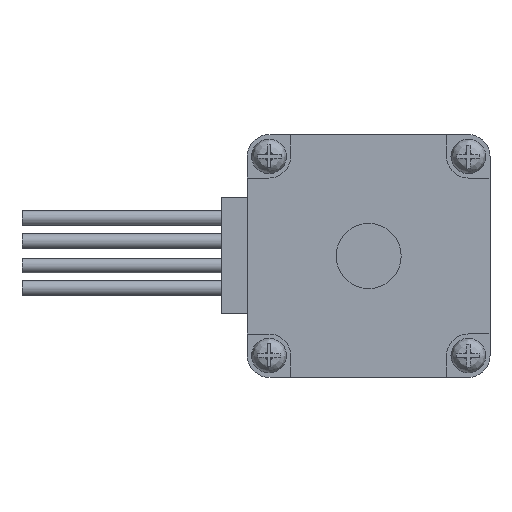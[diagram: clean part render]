
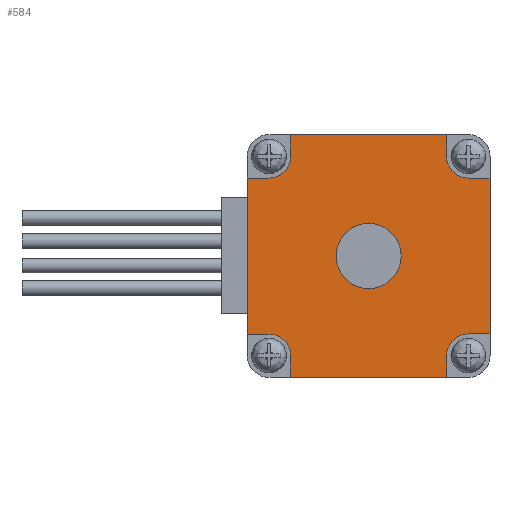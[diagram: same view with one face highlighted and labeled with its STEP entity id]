
A CAD part, front view. The second image highlights one B-rep face of the part: STEP entity #584.
In plain terms, the highlighted planar face has unit normal (0, -1, 0).
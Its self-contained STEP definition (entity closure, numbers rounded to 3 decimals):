
#216=FACE_BOUND('',#1122,.T.);
#217=FACE_BOUND('',#1123,.T.);
#467=CIRCLE('',#3623,3.75);
#468=CIRCLE('',#3624,2.5);
#469=CIRCLE('',#3625,2.5);
#470=CIRCLE('',#3626,2.5);
#471=CIRCLE('',#3627,2.5);
#584=ADVANCED_FACE('',(#216,#217),#746,.T.);
#746=PLANE('',#3628);
#1122=EDGE_LOOP('',(#1672));
#1123=EDGE_LOOP('',(#1673,#1674,#1675,#1676,#1677,#1678,#1679,#1680,#1681,
#1682,#1683,#1684,#1685,#1686,#1687,#1688));
#1672=ORIENTED_EDGE('',*,*,#2713,.F.);
#1673=ORIENTED_EDGE('',*,*,#2714,.F.);
#1674=ORIENTED_EDGE('',*,*,#2698,.T.);
#1675=ORIENTED_EDGE('',*,*,#2715,.F.);
#1676=ORIENTED_EDGE('',*,*,#2716,.F.);
#1677=ORIENTED_EDGE('',*,*,#2717,.F.);
#1678=ORIENTED_EDGE('',*,*,#2703,.T.);
#1679=ORIENTED_EDGE('',*,*,#2718,.F.);
#1680=ORIENTED_EDGE('',*,*,#2719,.F.);
#1681=ORIENTED_EDGE('',*,*,#2720,.F.);
#1682=ORIENTED_EDGE('',*,*,#2708,.T.);
#1683=ORIENTED_EDGE('',*,*,#2721,.F.);
#1684=ORIENTED_EDGE('',*,*,#2722,.F.);
#1685=ORIENTED_EDGE('',*,*,#2723,.F.);
#1686=ORIENTED_EDGE('',*,*,#2663,.T.);
#1687=ORIENTED_EDGE('',*,*,#2724,.F.);
#1688=ORIENTED_EDGE('',*,*,#2725,.F.);
#2309=VERTEX_POINT('',#5567);
#2310=VERTEX_POINT('',#5569);
#2336=VERTEX_POINT('',#5644);
#2337=VERTEX_POINT('',#5645);
#2340=VERTEX_POINT('',#5654);
#2341=VERTEX_POINT('',#5655);
#2344=VERTEX_POINT('',#5664);
#2345=VERTEX_POINT('',#5665);
#2348=VERTEX_POINT('',#5674);
#2349=VERTEX_POINT('',#5676);
#2350=VERTEX_POINT('',#5678);
#2351=VERTEX_POINT('',#5680);
#2352=VERTEX_POINT('',#5683);
#2353=VERTEX_POINT('',#5685);
#2354=VERTEX_POINT('',#5688);
#2355=VERTEX_POINT('',#5690);
#2356=VERTEX_POINT('',#5693);
#2663=EDGE_CURVE('',#2310,#2309,#2983,.T.);
#2698=EDGE_CURVE('',#2336,#2337,#3007,.T.);
#2703=EDGE_CURVE('',#2340,#2341,#3012,.T.);
#2708=EDGE_CURVE('',#2344,#2345,#3017,.T.);
#2713=EDGE_CURVE('',#2348,#2348,#467,.T.);
#2714=EDGE_CURVE('',#2336,#2349,#3022,.T.);
#2715=EDGE_CURVE('',#2350,#2337,#3023,.T.);
#2716=EDGE_CURVE('',#2351,#2350,#468,.T.);
#2717=EDGE_CURVE('',#2340,#2351,#3024,.T.);
#2718=EDGE_CURVE('',#2352,#2341,#3025,.T.);
#2719=EDGE_CURVE('',#2353,#2352,#469,.T.);
#2720=EDGE_CURVE('',#2344,#2353,#3026,.T.);
#2721=EDGE_CURVE('',#2354,#2345,#3027,.T.);
#2722=EDGE_CURVE('',#2355,#2354,#470,.T.);
#2723=EDGE_CURVE('',#2310,#2355,#3028,.T.);
#2724=EDGE_CURVE('',#2356,#2309,#3029,.T.);
#2725=EDGE_CURVE('',#2349,#2356,#471,.T.);
#2983=LINE('',#5568,#3271);
#3007=LINE('',#5643,#3295);
#3012=LINE('',#5653,#3300);
#3017=LINE('',#5663,#3305);
#3022=LINE('',#5675,#3310);
#3023=LINE('',#5677,#3311);
#3024=LINE('',#5681,#3312);
#3025=LINE('',#5682,#3313);
#3026=LINE('',#5686,#3314);
#3027=LINE('',#5687,#3315);
#3028=LINE('',#5691,#3316);
#3029=LINE('',#5692,#3317);
#3271=VECTOR('',#4157,1.);
#3295=VECTOR('',#4231,1.);
#3300=VECTOR('',#4238,1.);
#3305=VECTOR('',#4245,1.);
#3310=VECTOR('',#4254,1.);
#3311=VECTOR('',#4255,1.);
#3312=VECTOR('',#4258,1.);
#3313=VECTOR('',#4259,1.);
#3314=VECTOR('',#4262,1.);
#3315=VECTOR('',#4263,1.);
#3316=VECTOR('',#4266,1.);
#3317=VECTOR('',#4267,1.);
#3623=AXIS2_PLACEMENT_3D('',#5673,#4252,#4253);
#3624=AXIS2_PLACEMENT_3D('',#5679,#4256,#4257);
#3625=AXIS2_PLACEMENT_3D('',#5684,#4260,#4261);
#3626=AXIS2_PLACEMENT_3D('',#5689,#4264,#4265);
#3627=AXIS2_PLACEMENT_3D('',#5694,#4268,#4269);
#3628=AXIS2_PLACEMENT_3D('',#5695,#4270,#4271);
#4157=DIRECTION('',(0.,0.,-1.));
#4231=DIRECTION('',(1.,0.,0.));
#4238=DIRECTION('',(0.,0.,1.));
#4245=DIRECTION('',(-1.,0.,0.));
#4252=DIRECTION('',(0.,-1.,0.));
#4253=DIRECTION('',(0.,0.,-1.));
#4254=DIRECTION('',(0.,0.,1.));
#4255=DIRECTION('',(0.,0.,-1.));
#4256=DIRECTION('',(0.,-1.,0.));
#4257=DIRECTION('',(-1.,0.,0.));
#4258=DIRECTION('',(-1.,0.,0.));
#4259=DIRECTION('',(1.,0.,0.));
#4260=DIRECTION('',(0.,-1.,0.));
#4261=DIRECTION('',(0.,0.,-1.));
#4262=DIRECTION('',(0.,0.,-1.));
#4263=DIRECTION('',(0.,0.,1.));
#4264=DIRECTION('',(0.,-1.,0.));
#4265=DIRECTION('',(1.,0.,0.));
#4266=DIRECTION('',(1.,0.,0.));
#4267=DIRECTION('',(-1.,0.,0.));
#4268=DIRECTION('',(0.,-1.,0.));
#4269=DIRECTION('',(0.,0.,1.));
#4270=DIRECTION('',(0.,-1.,0.));
#4271=DIRECTION('',(0.,0.,-1.));
#5567=CARTESIAN_POINT('',(-14.,-7.1,-9.));
#5568=CARTESIAN_POINT('',(-14.,-7.1,11.5));
#5569=CARTESIAN_POINT('',(-14.,-7.1,9.));
#5643=CARTESIAN_POINT('',(-11.5,-7.1,-14.));
#5644=CARTESIAN_POINT('',(-9.,-7.1,-14.));
#5645=CARTESIAN_POINT('',(9.,-7.1,-14.));
#5653=CARTESIAN_POINT('',(14.,-7.1,-11.5));
#5654=CARTESIAN_POINT('',(14.,-7.1,-9.));
#5655=CARTESIAN_POINT('',(14.,-7.1,9.));
#5663=CARTESIAN_POINT('',(11.5,-7.1,14.));
#5664=CARTESIAN_POINT('',(9.,-7.1,14.));
#5665=CARTESIAN_POINT('',(-9.,-7.1,14.));
#5673=CARTESIAN_POINT('',(0.,-7.1,0.));
#5674=CARTESIAN_POINT('',(0.,-7.1,-3.75));
#5675=CARTESIAN_POINT('',(-9.,-7.1,-16.231));
#5676=CARTESIAN_POINT('',(-9.,-7.1,-11.5));
#5677=CARTESIAN_POINT('',(9.,-7.1,-11.5));
#5678=CARTESIAN_POINT('',(9.,-7.1,-11.5));
#5679=CARTESIAN_POINT('',(11.5,-7.1,-11.5));
#5680=CARTESIAN_POINT('',(11.5,-7.1,-9.));
#5681=CARTESIAN_POINT('',(16.231,-7.1,-9.));
#5682=CARTESIAN_POINT('',(11.5,-7.1,9.));
#5683=CARTESIAN_POINT('',(11.5,-7.1,9.));
#5684=CARTESIAN_POINT('',(11.5,-7.1,11.5));
#5685=CARTESIAN_POINT('',(9.,-7.1,11.5));
#5686=CARTESIAN_POINT('',(9.,-7.1,16.231));
#5687=CARTESIAN_POINT('',(-9.,-7.1,11.5));
#5688=CARTESIAN_POINT('',(-9.,-7.1,11.5));
#5689=CARTESIAN_POINT('',(-11.5,-7.1,11.5));
#5690=CARTESIAN_POINT('',(-11.5,-7.1,9.));
#5691=CARTESIAN_POINT('',(-16.231,-7.1,9.));
#5692=CARTESIAN_POINT('',(-11.5,-7.1,-9.));
#5693=CARTESIAN_POINT('',(-11.5,-7.1,-9.));
#5694=CARTESIAN_POINT('',(-11.5,-7.1,-11.5));
#5695=CARTESIAN_POINT('',(-11.5,-7.1,-11.5));
